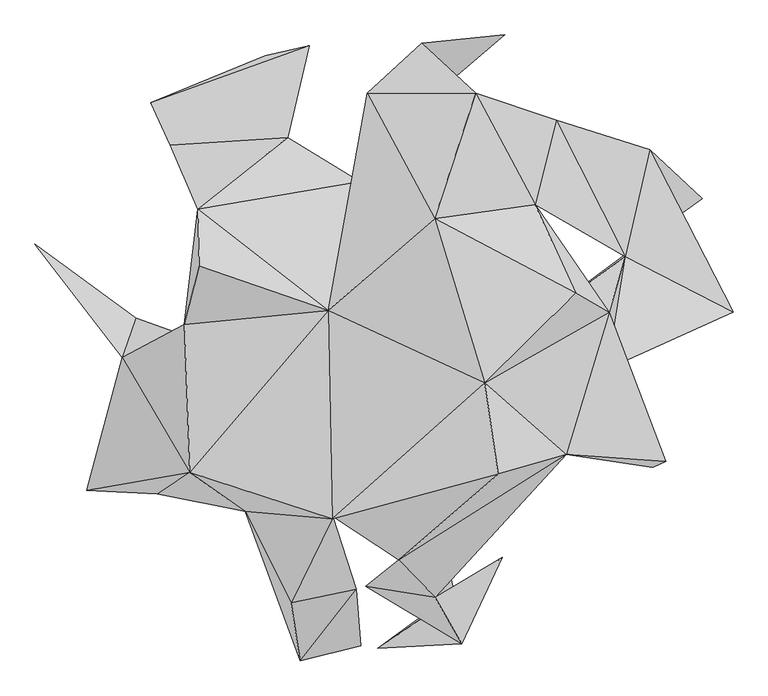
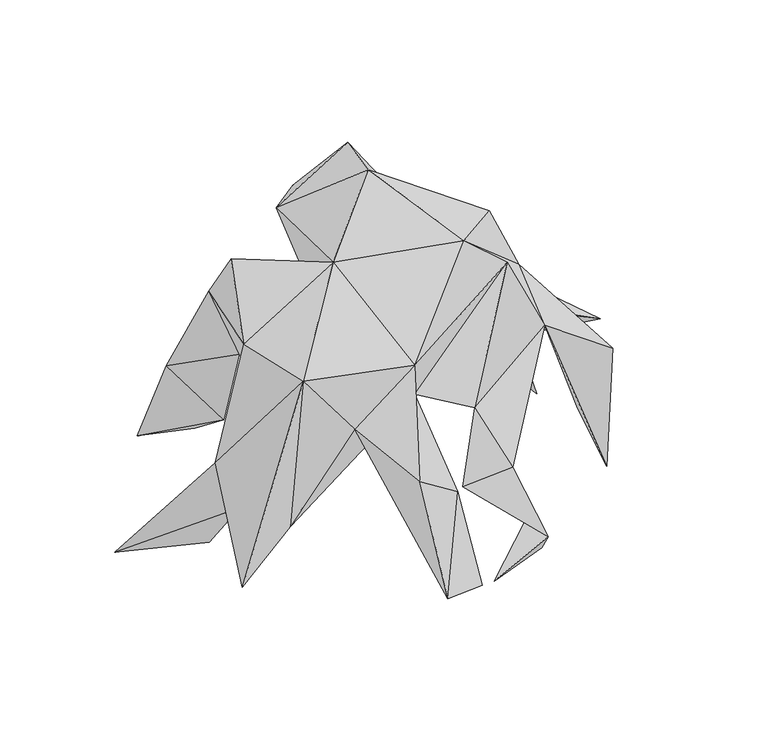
"""IFC4 building model written with IfcOpenShell, lengths in millimetres: geographic element geometry, Enscape AssetDefinition - Potted Plant 230 Grapevines : Enscape AssetDefinition - Potted Plant 230 Grapevines 4."""

from ifc_helpers import new_model, si_unit, origin, place, context, project, spatial, triangles, source, transform, mapped, element, save


def geographic_element_03524011(model_context):
    return source(origin(), model_context, "Body", "Tessellation", [
        triangles([(511.2949539, -280.4676008, -261.9969804), (535.4233867, -268.8830608, 81.8469028), (424.8012872, -93.1133935, 126.3439869), (346.566782, -256.2564332, 209.607918), (455.4874228, -233.5605439, -95.8880061), (428.1137667, 13.8057832, 203.6139524), (663.755924, 14.6746244, -45.6270887), (269.3614473, -16.6993338, 204.3638522), (505.6500587, 323.0175653, -6.741277), (503.3616082, 157.1516358, -127.6963843), (605.2978643, 230.0593041, -383.6244401), (455.761534, 296.3886312, -219.4625672), (459.1023911, 120.2078062, 5.4302577), (355.6663356, 287.0563338, 0.9490021), (287.7570904, 219.1884742, 238.1297235), (327.8789329, 379.2595176, 170.8927847), (364.5564543, 50.7341171, 365.9812583), (96.8809597, 191.9466595, 500.0000038), (175.1671786, 430.8495735, 410.3930097), (72.8223401, 526.0548815, 258.6793595), (192.4922839, -120.5568855, 439.6465656), (-262.8529056, -364.1065181, 172.0357201), (-97.6929196, -378.4967008, 317.3390602), (-368.4067643, -289.6292509, 309.7418859), (-175.5783272, -538.1281634, 86.7393095), (28.9148253, -456.5114156, 190.6123841), (217.7352199, -293.2778472, 470.2370313), (-33.6313933, -506.3120459, 2.2419206), (84.3008682, -284.1369262, 219.1341534), (-96.1879606, -374.0180134, 226.6434152), (-8.7530574, -107.1260465, 10.5140135), (-295.0026147, 157.9506786, 95.6552714), (112.2382436, 55.5929094, 40.7734787), (149.1536593, 385.354349, 192.621582), (-31.1541622, 430.4771762, 283.6585579), (-104.837587, 17.2216743, 393.4040394), (-45.6762227, 262.3357497, 188.5721562), (-182.0843073, 345.7988056, 107.1131204), (-91.9187444, 65.7914511, -26.3574346), (-262.2245464, 291.1523047, -196.6373797), (-405.2911408, 331.5844843, -7.3799785), (-224.6756211, 502.1384997, -363.3643759), (-441.9660825, 412.9917609, -256.0366247), (-141.0056737, 520.8780536, -344.3817773), (-352.4133728, 210.7069243, 275.5907364), (-378.3596452, -8.946996, 256.3366064), (-332.7274014, -46.2502747, 113.9190458), (-429.6988443, -330.6173558, -87.9391454), (-430.5625271, -81.3633567, -180.8508615), (-470.3378245, 3.090075, -322.62195), (-662.1164165, 143.7880438, -370.8891346), (-496.2763576, -71.2966928, -25.5428972), (-563.6736609, -324.1010385, -228.1561499), (-51.7193222, -511.8560752, -2.805633), (-158.5014626, -647.8736086, -209.7889389), (-43.2300194, -619.6776552, -225.7771527), (-350.336937, 101.6776963, 439.0725091), (230.1265602, 541.3837423, -209.7268787), (113.2260376, 442.4858182, -100.1598021), (148.8795481, -615.8041271, -147.7133493), (97.8506498, -527.016814, 29.0699802), (-10.904475, -624.500326, -221.2752109), (135.5030299, -524.0974065, -149.223477), (225.6271982, -451.1018257, -307.4405002)], [[64, 62, 63], [62, 60, 63], [63, 60, 28], [64, 60, 62], [28, 60, 61], [63, 61, 64], [60, 64, 61], [59, 58, 20], [35, 58, 59], [20, 58, 35], [45, 46, 57], [45, 57, 36], [46, 36, 57], [36, 46, 24], [55, 56, 54], [25, 55, 54], [22, 55, 25], [54, 56, 22], [56, 55, 22], [30, 54, 22], [25, 54, 30], [24, 53, 48], [24, 48, 22], [30, 22, 48], [52, 53, 24], [52, 48, 53], [52, 24, 46], [50, 51, 52], [49, 48, 52], [51, 50, 49], [51, 49, 52], [47, 50, 52], [48, 49, 47], [30, 48, 47], [47, 52, 46], [49, 50, 47], [32, 46, 45], [47, 46, 32], [45, 41, 32], [44, 43, 41], [44, 42, 43], [43, 42, 40], [41, 40, 32], [41, 43, 40], [40, 42, 44], [45, 38, 41], [38, 44, 41], [32, 40, 38], [40, 44, 38], [39, 32, 38], [35, 37, 36], [45, 37, 38], [37, 45, 36], [39, 38, 37], [34, 59, 20], [34, 37, 35], [34, 35, 59], [33, 39, 37], [33, 37, 34], [47, 32, 31], [39, 31, 32], [31, 39, 33], [30, 47, 31], [8, 33, 34], [31, 33, 8], [29, 30, 31], [8, 29, 31], [4, 29, 8], [4, 61, 29], [61, 63, 29], [63, 28, 26], [28, 61, 26], [29, 26, 30], [63, 26, 29], [26, 61, 4], [26, 27, 30], [26, 4, 27], [23, 25, 30], [22, 23, 24], [24, 23, 36], [22, 25, 23], [30, 27, 23], [21, 23, 27], [27, 4, 21], [23, 21, 36], [6, 8, 34], [13, 8, 6], [21, 4, 6], [21, 6, 17], [35, 36, 18], [36, 21, 18], [18, 21, 17], [19, 20, 35], [19, 34, 20], [35, 18, 19], [15, 6, 34], [15, 19, 18], [18, 17, 15], [17, 6, 15], [19, 16, 34], [15, 16, 19], [13, 16, 15], [14, 13, 15], [34, 16, 14], [15, 34, 14], [14, 10, 13], [13, 10, 8], [14, 12, 10], [11, 10, 12], [13, 9, 16], [11, 12, 9], [10, 11, 9], [9, 14, 16], [12, 14, 9], [7, 10, 9], [13, 7, 9], [3, 4, 8], [3, 7, 13], [8, 10, 3], [7, 3, 10], [3, 13, 6], [5, 4, 3], [5, 1, 4], [4, 2, 6], [2, 3, 6], [2, 5, 3], [1, 2, 4], [2, 1, 5]]),
    ])


if __name__ == "__main__":
    model = new_model("IFC4")
    model_context = context("Model", 3, world=origin())
    ifc_project = project(units=[si_unit("LENGTHUNIT", "METRE", prefix="MILLI")], contexts=[model_context])
    site = spatial("IfcSite", under=ifc_project)
    building = spatial("IfcBuilding", under=site)
    placement = place(None, origin())
    geographic_element_shape = geographic_element_03524011(model_context)
    element("IfcGeographicElement", 1, ObjectType="Enscape AssetDefinition - Potted Plant 230 Grapevines : Enscape AssetDefinition - Potted Plant 230 Grapevines 4", at=placement, inside=building, context=model_context, shape_type="MappedRepresentation", body=[
        mapped(geographic_element_shape, transform((0.0, 0.0, 0.0), x_axis=(1.0, 0.0, 0.0), y_axis=(0.0, 1.0, 0.0), z_axis=(0.0, 0.0, 1.0))),
    ])
    save(model, "model.ifc")
